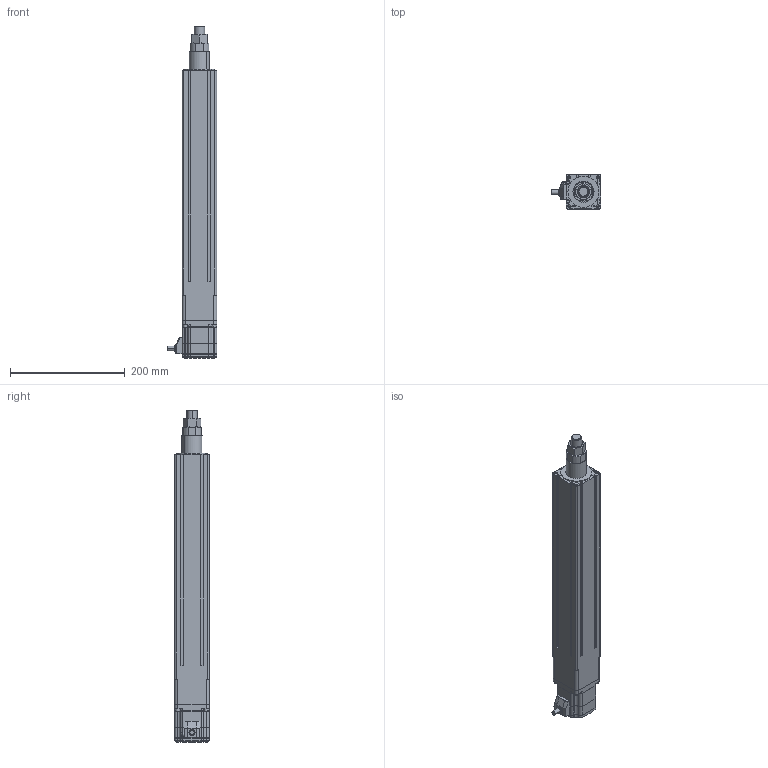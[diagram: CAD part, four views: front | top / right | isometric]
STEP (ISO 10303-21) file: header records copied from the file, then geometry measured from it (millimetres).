
FILE_DESCRIPTION (( 'STEP AP203' ), '1' );
FILE_NAME ('EACM6D30ARAC.step', '2013-11-05T07:10:27', ( 'om' ), ( 'Hewlett-Packard Company' ), 'SwSTEP 2.0', 'SolidWorks 2011', '' );
FILE_SCHEMA (( 'CONFIG_CONTROL_DESIGN' ));
Length unit declared in the file: millimetre
Products named in the file (5): EACM6D30ARAC_BASE; EACM6D30ARAC_Nut; EACM6D30ARAC; EACM6D30ARAC_Rod; EACM6D30ARAC_Motor
Assembly tree (4 placements, depth 2):
  EACM6D30ARAC
    EACM6D30ARAC_Motor
    EACM6D30ARAC_Nut
    EACM6D30ARAC_Rod
    EACM6D30ARAC_BASE
Bounding box: 86 x 60 x 578.2 mm (x, y, z)
Volume: 1701289.7 mm3; surface area: 276622.7 mm2
Topology: 4 solids, 5 shells, 534 faces, 1404 edges, 914 vertices
Faces by surface type: plane 298, cylinder 190, cone 38, bspline 4, torus 2, sphere 2
Entity records: 17267 total; most frequent: CARTESIAN_POINT 3394, DIRECTION 2797, ORIENTED_EDGE 2776, EDGE_CURVE 1388, AXIS2_PLACEMENT_3D 937, LINE 923, VECTOR 923, VERTEX_POINT 914
